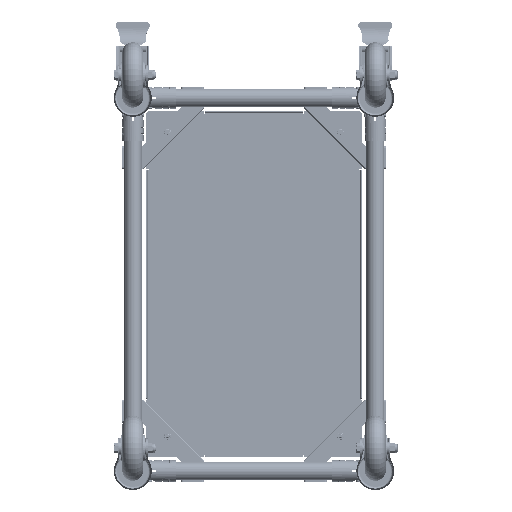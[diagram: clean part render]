
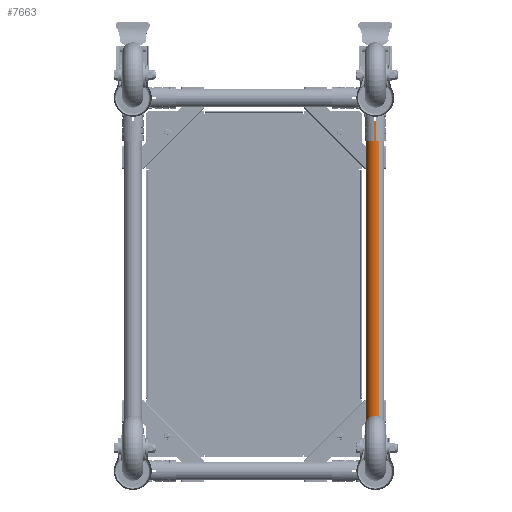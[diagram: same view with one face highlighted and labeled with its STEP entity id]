
A CAD part, front view. The second image highlights one B-rep face of the part: STEP entity #7663.
In plain terms, the highlighted cylindrical face has radius 14 mm (diameter 28 mm), a partial arc.
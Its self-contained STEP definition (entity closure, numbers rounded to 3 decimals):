
#3532 = CIRCLE ( 'NONE', #47538, 14. ) ;
#7288 = LINE ( 'NONE', #84811, #81053 ) ;
#7318 = VERTEX_POINT ( 'NONE', #54531 ) ;
#7663 = ADVANCED_FACE ( 'NONE', ( #50946 ), #46174, .T. ) ;
#10603 = ORIENTED_EDGE ( 'NONE', *, *, #26684, .T. ) ;
#11294 = DIRECTION ( 'NONE',  ( -1., 0., 0. ) ) ;
#11660 = CARTESIAN_POINT ( 'NONE',  ( 0., 0., 250. ) ) ;
#14477 = VERTEX_POINT ( 'NONE', #71306 ) ;
#17951 = AXIS2_PLACEMENT_3D ( 'NONE', #11660, #18093, #22873 ) ;
#18093 = DIRECTION ( 'NONE',  ( 0., 0., 1. ) ) ;
#22873 = DIRECTION ( 'NONE',  ( 1., 0., 0. ) ) ;
#24476 = DIRECTION ( 'NONE',  ( 0., 0., -1. ) ) ;
#24887 = ORIENTED_EDGE ( 'NONE', *, *, #79783, .T. ) ;
#26488 = CARTESIAN_POINT ( 'NONE',  ( 14., 0., -250. ) ) ;
#26684 = EDGE_CURVE ( 'NONE', #7318, #39510, #3532, .T. ) ;
#29703 = VERTEX_POINT ( 'NONE', #59446 ) ;
#37830 = CARTESIAN_POINT ( 'NONE',  ( -14., 0., 250. ) ) ;
#38856 = CARTESIAN_POINT ( 'NONE',  ( 0., 0., 250. ) ) ;
#39109 = EDGE_LOOP ( 'NONE', ( #67598, #70993, #24887, #10603 ) ) ;
#39510 = VERTEX_POINT ( 'NONE', #26488 ) ;
#45454 = CIRCLE ( 'NONE', #17951, 14. ) ;
#46174 = CYLINDRICAL_SURFACE ( 'NONE', #81488, 14. ) ;
#47538 = AXIS2_PLACEMENT_3D ( 'NONE', #74634, #48821, #47937 ) ;
#47937 = DIRECTION ( 'NONE',  ( 1., 0., 0. ) ) ;
#48821 = DIRECTION ( 'NONE',  ( 0., 0., 1. ) ) ;
#49540 = EDGE_CURVE ( 'NONE', #29703, #39510, #7288, .T. ) ;
#50946 = FACE_OUTER_BOUND ( 'NONE', #39109, .T. ) ;
#54531 = CARTESIAN_POINT ( 'NONE',  ( -14., 0., -250. ) ) ;
#58676 = DIRECTION ( 'NONE',  ( 0., 0., -1. ) ) ;
#59446 = CARTESIAN_POINT ( 'NONE',  ( 14., 0., 250. ) ) ;
#67598 = ORIENTED_EDGE ( 'NONE', *, *, #49540, .F. ) ;
#70993 = ORIENTED_EDGE ( 'NONE', *, *, #82902, .F. ) ;
#71306 = CARTESIAN_POINT ( 'NONE',  ( -14., 0., 250. ) ) ;
#71446 = DIRECTION ( 'NONE',  ( 0., 0., -1. ) ) ;
#72761 = VECTOR ( 'NONE', #24476, 1000. ) ;
#74634 = CARTESIAN_POINT ( 'NONE',  ( 0., 0., -250. ) ) ;
#79783 = EDGE_CURVE ( 'NONE', #14477, #7318, #84343, .T. ) ;
#81053 = VECTOR ( 'NONE', #71446, 1000. ) ;
#81488 = AXIS2_PLACEMENT_3D ( 'NONE', #38856, #58676, #11294 ) ;
#82902 = EDGE_CURVE ( 'NONE', #14477, #29703, #45454, .T. ) ;
#84343 = LINE ( 'NONE', #37830, #72761 ) ;
#84811 = CARTESIAN_POINT ( 'NONE',  ( 14., 0., 250. ) ) ;
